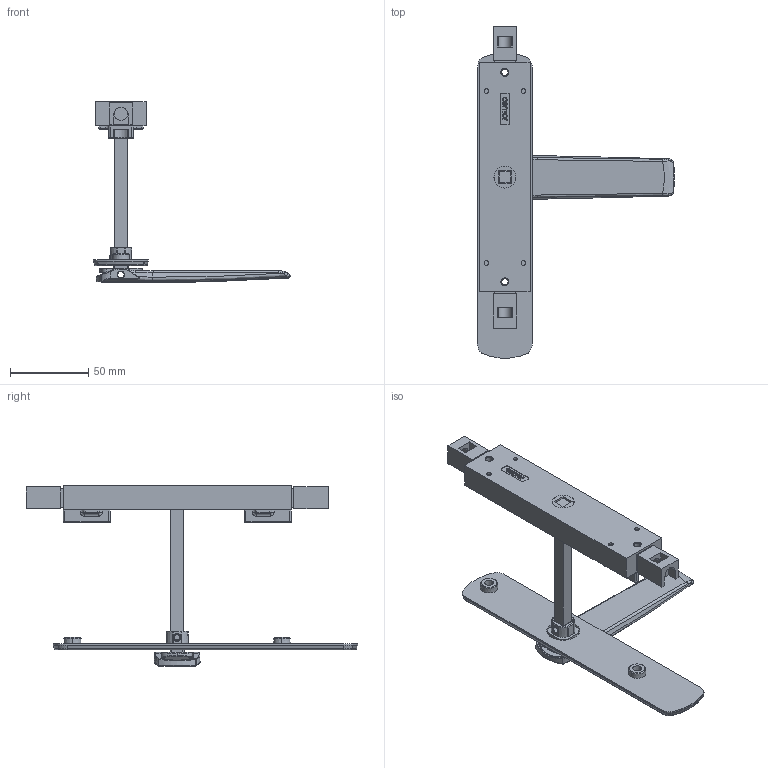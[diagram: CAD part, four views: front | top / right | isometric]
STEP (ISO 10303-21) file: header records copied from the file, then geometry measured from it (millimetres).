
FILE_DESCRIPTION (( 'STEP AP214' ), '1' );
FILE_NAME ('TPL-H-EU-601-A 30Oct2024.STEP', '2024-10-30T03:21:59', ( '' ), ( '' ), 'SwSTEP 2.0', 'SolidWorks 2023', '' );
FILE_SCHEMA (( 'AUTOMOTIVE_DESIGN' ));
Length unit declared in the file: millimetre
Products named in the file (11): Copy of LKC-585 Rotator body zinc^Copy of TPGen2 handle non-keyed short zinc - simplified_TPL-H-EU-101 30Oct2024; Copy of TPGen2 handle non-keyed short zinc - simplified^TPL-H-EU-101 30Oct2024_Left; TPL-H-EU-601-A 30Oct2024; TPLGen2 push rod - simplified_Female thread M10; Copy of TPLGen2 lock body non-keyed^Copy of TPLGen2 lock body non-keyed assembly_TPL-H-EU-101 30Oct2024; Copy of LKC-505 Swing handle zinc - simplified^Copy of TPGen2 handle non-keyed short zinc - simplified_TPL-H-EU-101 30Oct2024; Copy of TPL-H-APC-515 04Oct2024^TPL-H-EU-101 30Oct2024; Copy of LKC-516 Escutcheon plate unkeyed 195mm long zinc - simplified^Copy of TPGen2 handle non-keyed short zinc - simplified_TPL-H-EU-101 30Oct2024; Copy of TPLGen2 lock body non-keyed assembly^TPL-H-EU-101 30Oct2024_Bolts retracted; Copy of LKC-586 Spindle square 8mm with M4 hole^Copy of TPGen2 handle non-keyed short zinc - simplified_TPL-H-EU-101 30Oct2024_100mm; Copy of LKC-584 Pivot body zinc - simplified^Copy of TPGen2 handle non-keyed short zinc - simplified_TPL-H-EU-101 30Oct2024
Assembly tree (12 placements, depth 3):
  TPL-H-EU-601-A 30Oct2024
    Copy of TPLGen2 lock body non-keyed assembly^TPL-H-EU-101 30Oct2024_Bolts retracted
      Copy of TPLGen2 lock body non-keyed^Copy of TPLGen2 lock body non-keyed assembly_TPL-H-EU-101 30Oct2024
      TPLGen2 push rod - simplified_Female thread M10  x2
    Copy of TPGen2 handle non-keyed short zinc - simplified^TPL-H-EU-101 30Oct2024_Left
      Copy of LKC-516 Escutcheon plate unkeyed 195mm long zinc - simplified^Copy of TPGen2 handle non-keyed short zinc - simplified_TPL-H-EU-101 30Oct2024
      Copy of LKC-505 Swing handle zinc - simplified^Copy of TPGen2 handle non-keyed short zinc - simplified_TPL-H-EU-101 30Oct2024
      Copy of LKC-585 Rotator body zinc^Copy of TPGen2 handle non-keyed short zinc - simplified_TPL-H-EU-101 30Oct2024
      Copy of LKC-586 Spindle square 8mm with M4 hole^Copy of TPGen2 handle non-keyed short zinc - simplified_TPL-H-EU-101 30Oct2024_100mm
      Copy of LKC-584 Pivot body zinc - simplified^Copy of TPGen2 handle non-keyed short zinc - simplified_TPL-H-EU-101 30Oct2024
    Copy of TPL-H-APC-515 04Oct2024^TPL-H-EU-101 30Oct2024  x2
Bounding box: 125.62 x 211.42 x 115.21 mm (x, y, z)
Volume: 135474.5 mm3; surface area: 62706.4 mm2
Topology: 10 solids, 10 shells, 1013 faces, 2470 edges, 1506 vertices
Faces by surface type: plane 312, bspline 273, cylinder 256, torus 88, cone 62, sphere 22
Entity records: 31294 total; most frequent: CARTESIAN_POINT 13397, ORIENTED_EDGE 3984, DIRECTION 3208, EDGE_CURVE 1992, VERTEX_POINT 1218, AXIS2_PLACEMENT_3D 1203, EDGE_LOOP 904, FACE_OUTER_BOUND 827
